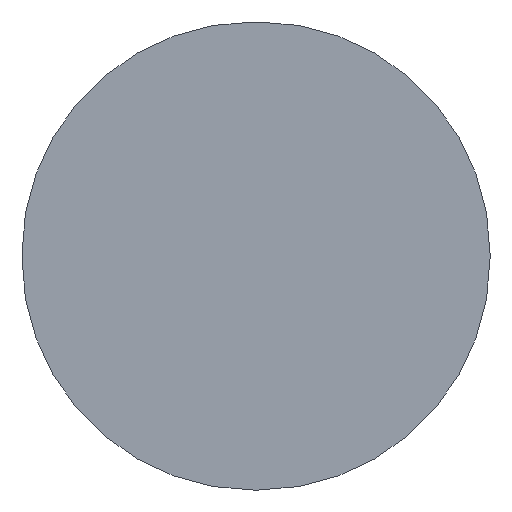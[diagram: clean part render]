
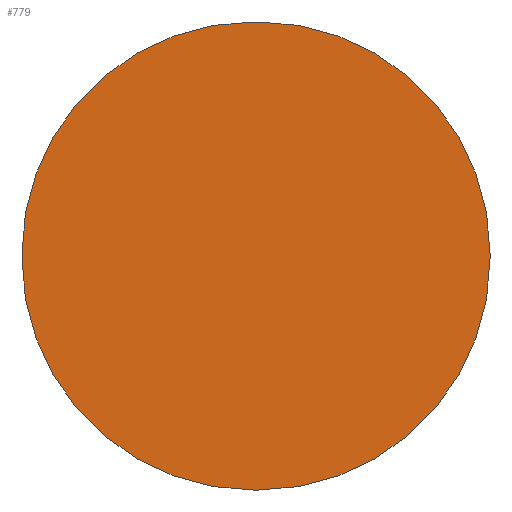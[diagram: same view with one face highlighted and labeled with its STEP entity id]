
A CAD part, left-side view. The second image highlights one B-rep face of the part: STEP entity #779.
In plain terms, the highlighted planar face has unit normal (-1, 0, 0).
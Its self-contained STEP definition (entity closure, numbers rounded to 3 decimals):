
#32 = PLANE('',#33);
#33 = AXIS2_PLACEMENT_3D('',#34,#35,#36);
#34 = CARTESIAN_POINT('',(43.2,16.,8.));
#35 = DIRECTION('',(0.,0.,-1.));
#36 = DIRECTION('',(1.,0.,0.));
#57 = VERTEX_POINT('',#58);
#58 = CARTESIAN_POINT('',(43.2,23.9,8.));
#72 = CYLINDRICAL_SURFACE('',#73,7.9);
#73 = AXIS2_PLACEMENT_3D('',#74,#75,#76);
#74 = CARTESIAN_POINT('',(43.2,23.9,0.1));
#75 = DIRECTION('',(1.,0.,0.));
#76 = DIRECTION('',(0.,0.,1.));
#84 = EDGE_CURVE('',#57,#85,#87,.T.);
#85 = VERTEX_POINT('',#86);
#86 = CARTESIAN_POINT('',(43.2,24.1,8.));
#87 = SURFACE_CURVE('',#88,(#92,#99),.PCURVE_S1.);
#88 = LINE('',#89,#90);
#89 = CARTESIAN_POINT('',(43.2,16.,8.));
#90 = VECTOR('',#91,1.);
#91 = DIRECTION('',(0.,1.,0.));
#92 = PCURVE('',#32,#93);
#93 = DEFINITIONAL_REPRESENTATION('',(#94),#98);
#94 = LINE('',#95,#96);
#95 = CARTESIAN_POINT('',(0.,0.));
#96 = VECTOR('',#97,1.);
#97 = DIRECTION('',(0.,-1.));
#98 = ( GEOMETRIC_REPRESENTATION_CONTEXT(2) 
PARAMETRIC_REPRESENTATION_CONTEXT() REPRESENTATION_CONTEXT('2D SPACE',''
  ) );
#99 = PCURVE('',#100,#105);
#100 = PLANE('',#101);
#101 = AXIS2_PLACEMENT_3D('',#102,#103,#104);
#102 = CARTESIAN_POINT('',(43.2,16.,8.));
#103 = DIRECTION('',(1.,0.,0.));
#104 = DIRECTION('',(0.,0.,-1.));
#105 = DEFINITIONAL_REPRESENTATION('',(#106),#110);
#106 = LINE('',#107,#108);
#107 = CARTESIAN_POINT('',(0.,0.));
#108 = VECTOR('',#109,1.);
#109 = DIRECTION('',(0.,1.));
#110 = ( GEOMETRIC_REPRESENTATION_CONTEXT(2) 
PARAMETRIC_REPRESENTATION_CONTEXT() REPRESENTATION_CONTEXT('2D SPACE',''
  ) );
#126 = CYLINDRICAL_SURFACE('',#127,7.9);
#127 = AXIS2_PLACEMENT_3D('',#128,#129,#130);
#128 = CARTESIAN_POINT('',(43.2,24.1,0.1));
#129 = DIRECTION('',(1.,0.,0.));
#130 = DIRECTION('',(0.,0.,1.));
#182 = PLANE('',#183);
#183 = AXIS2_PLACEMENT_3D('',#184,#185,#186);
#184 = CARTESIAN_POINT('',(43.2,16.,8.));
#185 = DIRECTION('',(0.,1.,0.));
#186 = DIRECTION('',(1.,-0.,0.));
#215 = CYLINDRICAL_SURFACE('',#216,7.9);
#216 = AXIS2_PLACEMENT_3D('',#217,#218,#219);
#217 = CARTESIAN_POINT('',(43.2,23.9,-0.1));
#218 = DIRECTION('',(1.,0.,0.));
#219 = DIRECTION('',(0.,0.,-1.));
#243 = PLANE('',#244);
#244 = AXIS2_PLACEMENT_3D('',#245,#246,#247);
#245 = CARTESIAN_POINT('',(43.2,16.,-8.));
#246 = DIRECTION('',(0.,0.,-1.));
#247 = DIRECTION('',(1.,0.,0.));
#272 = CYLINDRICAL_SURFACE('',#273,7.9);
#273 = AXIS2_PLACEMENT_3D('',#274,#275,#276);
#274 = CARTESIAN_POINT('',(43.2,24.1,-0.1));
#275 = DIRECTION('',(1.,0.,0.));
#276 = DIRECTION('',(0.,0.,-1.));
#300 = PLANE('',#301);
#301 = AXIS2_PLACEMENT_3D('',#302,#303,#304);
#302 = CARTESIAN_POINT('',(43.2,32.,8.));
#303 = DIRECTION('',(0.,1.,0.));
#304 = DIRECTION('',(1.,-0.,0.));
#679 = EDGE_CURVE('',#57,#680,#682,.T.);
#680 = VERTEX_POINT('',#681);
#681 = CARTESIAN_POINT('',(43.2,16.,0.1));
#682 = SURFACE_CURVE('',#683,(#688,#695),.PCURVE_S1.);
#683 = CIRCLE('',#684,7.9);
#684 = AXIS2_PLACEMENT_3D('',#685,#686,#687);
#685 = CARTESIAN_POINT('',(43.2,23.9,0.1));
#686 = DIRECTION('',(1.,0.,0.));
#687 = DIRECTION('',(0.,-1.,0.));
#688 = PCURVE('',#72,#689);
#689 = DEFINITIONAL_REPRESENTATION('',(#690),#694);
#690 = LINE('',#691,#692);
#691 = CARTESIAN_POINT('',(-4.712,0.));
#692 = VECTOR('',#693,1.);
#693 = DIRECTION('',(1.,0.));
#694 = ( GEOMETRIC_REPRESENTATION_CONTEXT(2) 
PARAMETRIC_REPRESENTATION_CONTEXT() REPRESENTATION_CONTEXT('2D SPACE',''
  ) );
#695 = PCURVE('',#100,#696);
#696 = DEFINITIONAL_REPRESENTATION('',(#697),#701);
#697 = CIRCLE('',#698,7.9);
#698 = AXIS2_PLACEMENT_2D('',#699,#700);
#699 = CARTESIAN_POINT('',(7.9,7.9));
#700 = DIRECTION('',(0.,-1.));
#701 = ( GEOMETRIC_REPRESENTATION_CONTEXT(2) 
PARAMETRIC_REPRESENTATION_CONTEXT() REPRESENTATION_CONTEXT('2D SPACE',''
  ) );
#732 = VERTEX_POINT('',#733);
#733 = CARTESIAN_POINT('',(43.2,32.,0.1));
#754 = EDGE_CURVE('',#85,#732,#755,.T.);
#755 = SURFACE_CURVE('',#756,(#761,#768),.PCURVE_S1.);
#756 = CIRCLE('',#757,7.9);
#757 = AXIS2_PLACEMENT_3D('',#758,#759,#760);
#758 = CARTESIAN_POINT('',(43.2,24.1,0.1));
#759 = DIRECTION('',(-1.,-0.,0.));
#760 = DIRECTION('',(0.,-1.,0.));
#761 = PCURVE('',#126,#762);
#762 = DEFINITIONAL_REPRESENTATION('',(#763),#767);
#763 = LINE('',#764,#765);
#764 = CARTESIAN_POINT('',(7.854,0.));
#765 = VECTOR('',#766,1.);
#766 = DIRECTION('',(-1.,0.));
#767 = ( GEOMETRIC_REPRESENTATION_CONTEXT(2) 
PARAMETRIC_REPRESENTATION_CONTEXT() REPRESENTATION_CONTEXT('2D SPACE',''
  ) );
#768 = PCURVE('',#100,#769);
#769 = DEFINITIONAL_REPRESENTATION('',(#770),#778);
#770 = ( BOUNDED_CURVE() B_SPLINE_CURVE(2,(#771,#772,#773,#774,#775,#776
,#777),.UNSPECIFIED.,.T.,.F.) B_SPLINE_CURVE_WITH_KNOTS((1,2,2,2,2,1),(
    -2.094,0.,2.094,4.189,6.283,
8.378),.UNSPECIFIED.) CURVE() GEOMETRIC_REPRESENTATION_ITEM() 
RATIONAL_B_SPLINE_CURVE((1.,0.5,1.,0.5,1.,0.5,1.)) REPRESENTATION_ITEM(
  '') );
#771 = CARTESIAN_POINT('',(7.9,0.2));
#772 = CARTESIAN_POINT('',(-5.783,0.2));
#773 = CARTESIAN_POINT('',(1.058,12.05));
#774 = CARTESIAN_POINT('',(7.9,23.9));
#775 = CARTESIAN_POINT('',(14.742,12.05));
#776 = CARTESIAN_POINT('',(21.583,0.2));
#777 = CARTESIAN_POINT('',(7.9,0.2));
#778 = ( GEOMETRIC_REPRESENTATION_CONTEXT(2) 
PARAMETRIC_REPRESENTATION_CONTEXT() REPRESENTATION_CONTEXT('2D SPACE',''
  ) );
#779 = ADVANCED_FACE('',(#780),#100,.F.);
#780 = FACE_BOUND('',#781,.F.);
#781 = EDGE_LOOP('',(#782,#783,#784,#807,#835,#858,#882,#903));
#782 = ORIENTED_EDGE('',*,*,#84,.F.);
#783 = ORIENTED_EDGE('',*,*,#679,.T.);
#784 = ORIENTED_EDGE('',*,*,#785,.T.);
#785 = EDGE_CURVE('',#680,#786,#788,.T.);
#786 = VERTEX_POINT('',#787);
#787 = CARTESIAN_POINT('',(43.2,16.,-0.1));
#788 = SURFACE_CURVE('',#789,(#793,#800),.PCURVE_S1.);
#789 = LINE('',#790,#791);
#790 = CARTESIAN_POINT('',(43.2,16.,8.));
#791 = VECTOR('',#792,1.);
#792 = DIRECTION('',(0.,0.,-1.));
#793 = PCURVE('',#100,#794);
#794 = DEFINITIONAL_REPRESENTATION('',(#795),#799);
#795 = LINE('',#796,#797);
#796 = CARTESIAN_POINT('',(0.,0.));
#797 = VECTOR('',#798,1.);
#798 = DIRECTION('',(1.,0.));
#799 = ( GEOMETRIC_REPRESENTATION_CONTEXT(2) 
PARAMETRIC_REPRESENTATION_CONTEXT() REPRESENTATION_CONTEXT('2D SPACE',''
  ) );
#800 = PCURVE('',#182,#801);
#801 = DEFINITIONAL_REPRESENTATION('',(#802),#806);
#802 = LINE('',#803,#804);
#803 = CARTESIAN_POINT('',(0.,0.));
#804 = VECTOR('',#805,1.);
#805 = DIRECTION('',(0.,1.));
#806 = ( GEOMETRIC_REPRESENTATION_CONTEXT(2) 
PARAMETRIC_REPRESENTATION_CONTEXT() REPRESENTATION_CONTEXT('2D SPACE',''
  ) );
#807 = ORIENTED_EDGE('',*,*,#808,.F.);
#808 = EDGE_CURVE('',#809,#786,#811,.T.);
#809 = VERTEX_POINT('',#810);
#810 = CARTESIAN_POINT('',(43.2,23.9,-8.));
#811 = SURFACE_CURVE('',#812,(#817,#828),.PCURVE_S1.);
#812 = CIRCLE('',#813,7.9);
#813 = AXIS2_PLACEMENT_3D('',#814,#815,#816);
#814 = CARTESIAN_POINT('',(43.2,23.9,-0.1));
#815 = DIRECTION('',(-1.,-0.,0.));
#816 = DIRECTION('',(0.,-1.,0.));
#817 = PCURVE('',#100,#818);
#818 = DEFINITIONAL_REPRESENTATION('',(#819),#827);
#819 = ( BOUNDED_CURVE() B_SPLINE_CURVE(2,(#820,#821,#822,#823,#824,#825
,#826),.UNSPECIFIED.,.T.,.F.) B_SPLINE_CURVE_WITH_KNOTS((1,2,2,2,2,1),(
    -2.094,0.,2.094,4.189,6.283,
8.378),.UNSPECIFIED.) CURVE() GEOMETRIC_REPRESENTATION_ITEM() 
RATIONAL_B_SPLINE_CURVE((1.,0.5,1.,0.5,1.,0.5,1.)) REPRESENTATION_ITEM(
  '') );
#820 = CARTESIAN_POINT('',(8.1,0.));
#821 = CARTESIAN_POINT('',(-5.583,0.));
#822 = CARTESIAN_POINT('',(1.258,11.85));
#823 = CARTESIAN_POINT('',(8.1,23.7));
#824 = CARTESIAN_POINT('',(14.942,11.85));
#825 = CARTESIAN_POINT('',(21.783,0.));
#826 = CARTESIAN_POINT('',(8.1,0.));
#827 = ( GEOMETRIC_REPRESENTATION_CONTEXT(2) 
PARAMETRIC_REPRESENTATION_CONTEXT() REPRESENTATION_CONTEXT('2D SPACE',''
  ) );
#828 = PCURVE('',#215,#829);
#829 = DEFINITIONAL_REPRESENTATION('',(#830),#834);
#830 = LINE('',#831,#832);
#831 = CARTESIAN_POINT('',(10.996,0.));
#832 = VECTOR('',#833,1.);
#833 = DIRECTION('',(-1.,0.));
#834 = ( GEOMETRIC_REPRESENTATION_CONTEXT(2) 
PARAMETRIC_REPRESENTATION_CONTEXT() REPRESENTATION_CONTEXT('2D SPACE',''
  ) );
#835 = ORIENTED_EDGE('',*,*,#836,.T.);
#836 = EDGE_CURVE('',#809,#837,#839,.T.);
#837 = VERTEX_POINT('',#838);
#838 = CARTESIAN_POINT('',(43.2,24.1,-8.));
#839 = SURFACE_CURVE('',#840,(#844,#851),.PCURVE_S1.);
#840 = LINE('',#841,#842);
#841 = CARTESIAN_POINT('',(43.2,16.,-8.));
#842 = VECTOR('',#843,1.);
#843 = DIRECTION('',(0.,1.,0.));
#844 = PCURVE('',#100,#845);
#845 = DEFINITIONAL_REPRESENTATION('',(#846),#850);
#846 = LINE('',#847,#848);
#847 = CARTESIAN_POINT('',(16.,0.));
#848 = VECTOR('',#849,1.);
#849 = DIRECTION('',(0.,1.));
#850 = ( GEOMETRIC_REPRESENTATION_CONTEXT(2) 
PARAMETRIC_REPRESENTATION_CONTEXT() REPRESENTATION_CONTEXT('2D SPACE',''
  ) );
#851 = PCURVE('',#243,#852);
#852 = DEFINITIONAL_REPRESENTATION('',(#853),#857);
#853 = LINE('',#854,#855);
#854 = CARTESIAN_POINT('',(0.,0.));
#855 = VECTOR('',#856,1.);
#856 = DIRECTION('',(0.,-1.));
#857 = ( GEOMETRIC_REPRESENTATION_CONTEXT(2) 
PARAMETRIC_REPRESENTATION_CONTEXT() REPRESENTATION_CONTEXT('2D SPACE',''
  ) );
#858 = ORIENTED_EDGE('',*,*,#859,.T.);
#859 = EDGE_CURVE('',#837,#860,#862,.T.);
#860 = VERTEX_POINT('',#861);
#861 = CARTESIAN_POINT('',(43.2,32.,-0.1));
#862 = SURFACE_CURVE('',#863,(#868,#875),.PCURVE_S1.);
#863 = CIRCLE('',#864,7.9);
#864 = AXIS2_PLACEMENT_3D('',#865,#866,#867);
#865 = CARTESIAN_POINT('',(43.2,24.1,-0.1));
#866 = DIRECTION('',(1.,0.,0.));
#867 = DIRECTION('',(0.,-1.,0.));
#868 = PCURVE('',#100,#869);
#869 = DEFINITIONAL_REPRESENTATION('',(#870),#874);
#870 = CIRCLE('',#871,7.9);
#871 = AXIS2_PLACEMENT_2D('',#872,#873);
#872 = CARTESIAN_POINT('',(8.1,8.1));
#873 = DIRECTION('',(0.,-1.));
#874 = ( GEOMETRIC_REPRESENTATION_CONTEXT(2) 
PARAMETRIC_REPRESENTATION_CONTEXT() REPRESENTATION_CONTEXT('2D SPACE',''
  ) );
#875 = PCURVE('',#272,#876);
#876 = DEFINITIONAL_REPRESENTATION('',(#877),#881);
#877 = LINE('',#878,#879);
#878 = CARTESIAN_POINT('',(-1.571,0.));
#879 = VECTOR('',#880,1.);
#880 = DIRECTION('',(1.,0.));
#881 = ( GEOMETRIC_REPRESENTATION_CONTEXT(2) 
PARAMETRIC_REPRESENTATION_CONTEXT() REPRESENTATION_CONTEXT('2D SPACE',''
  ) );
#882 = ORIENTED_EDGE('',*,*,#883,.F.);
#883 = EDGE_CURVE('',#732,#860,#884,.T.);
#884 = SURFACE_CURVE('',#885,(#889,#896),.PCURVE_S1.);
#885 = LINE('',#886,#887);
#886 = CARTESIAN_POINT('',(43.2,32.,8.));
#887 = VECTOR('',#888,1.);
#888 = DIRECTION('',(0.,0.,-1.));
#889 = PCURVE('',#100,#890);
#890 = DEFINITIONAL_REPRESENTATION('',(#891),#895);
#891 = LINE('',#892,#893);
#892 = CARTESIAN_POINT('',(0.,16.));
#893 = VECTOR('',#894,1.);
#894 = DIRECTION('',(1.,0.));
#895 = ( GEOMETRIC_REPRESENTATION_CONTEXT(2) 
PARAMETRIC_REPRESENTATION_CONTEXT() REPRESENTATION_CONTEXT('2D SPACE',''
  ) );
#896 = PCURVE('',#300,#897);
#897 = DEFINITIONAL_REPRESENTATION('',(#898),#902);
#898 = LINE('',#899,#900);
#899 = CARTESIAN_POINT('',(0.,0.));
#900 = VECTOR('',#901,1.);
#901 = DIRECTION('',(0.,1.));
#902 = ( GEOMETRIC_REPRESENTATION_CONTEXT(2) 
PARAMETRIC_REPRESENTATION_CONTEXT() REPRESENTATION_CONTEXT('2D SPACE',''
  ) );
#903 = ORIENTED_EDGE('',*,*,#754,.F.);
